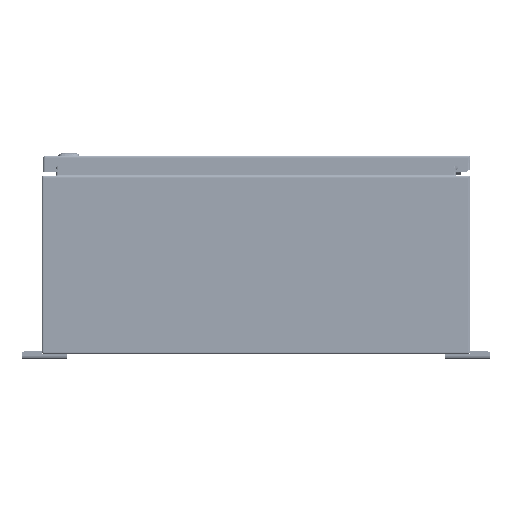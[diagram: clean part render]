
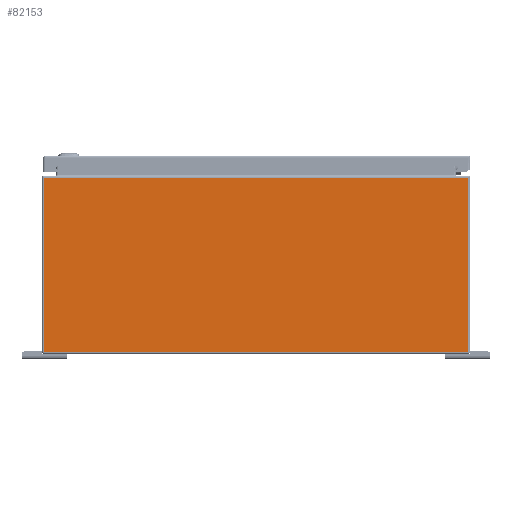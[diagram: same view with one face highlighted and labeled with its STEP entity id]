
A CAD part, left-side view. The second image highlights one B-rep face of the part: STEP entity #82153.
In plain terms, the highlighted planar face has unit normal (-1, 0, 0).
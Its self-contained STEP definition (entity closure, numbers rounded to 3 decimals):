
#4909=PLANE('',#88195);
#6984=LINE('',#116804,#13155);
#6985=LINE('',#116808,#13156);
#6986=LINE('',#116810,#13157);
#6987=LINE('',#116812,#13158);
#6988=LINE('',#116814,#13159);
#6989=LINE('',#116815,#13160);
#13155=VECTOR('',#95779,0.394);
#13156=VECTOR('',#95784,0.394);
#13157=VECTOR('',#95785,0.394);
#13158=VECTOR('',#95786,0.394);
#13159=VECTOR('',#95787,0.394);
#13160=VECTOR('',#95788,0.394);
#20580=FACE_OUTER_BOUND('',#25579,.T.);
#25579=EDGE_LOOP('',(#55475,#55476,#55477,#55478,#55479,#55480));
#34266=VERTEX_POINT('',#116786);
#34273=VERTEX_POINT('',#116803);
#34274=VERTEX_POINT('',#116807);
#34275=VERTEX_POINT('',#116809);
#34276=VERTEX_POINT('',#116811);
#34277=VERTEX_POINT('',#116813);
#42498=EDGE_CURVE('',#34266,#34273,#6984,.T.);
#42500=EDGE_CURVE('',#34274,#34266,#6985,.T.);
#42501=EDGE_CURVE('',#34274,#34275,#6986,.T.);
#42502=EDGE_CURVE('',#34276,#34275,#6987,.T.);
#42503=EDGE_CURVE('',#34277,#34276,#6988,.T.);
#42504=EDGE_CURVE('',#34277,#34273,#6989,.T.);
#55475=ORIENTED_EDGE('',*,*,#42500,.F.);
#55476=ORIENTED_EDGE('',*,*,#42501,.T.);
#55477=ORIENTED_EDGE('',*,*,#42502,.F.);
#55478=ORIENTED_EDGE('',*,*,#42503,.F.);
#55479=ORIENTED_EDGE('',*,*,#42504,.T.);
#55480=ORIENTED_EDGE('',*,*,#42498,.F.);
#82153=ADVANCED_FACE('',(#20580),#4909,.F.);
#88195=AXIS2_PLACEMENT_3D('',#116806,#95782,#95783);
#95779=DIRECTION('',(0.,0.,-1.));
#95782=DIRECTION('center_axis',(1.,0.,0.));
#95783=DIRECTION('ref_axis',(0.,0.,-1.));
#95784=DIRECTION('',(0.,-1.,0.));
#95785=DIRECTION('',(0.,1.,0.));
#95786=DIRECTION('',(0.,-1.,0.));
#95787=DIRECTION('',(0.,0.,1.));
#95788=DIRECTION('',(0.,-1.,0.));
#116786=CARTESIAN_POINT('',(-24.,-11.901,9.901));
#116803=CARTESIAN_POINT('',(-24.,-11.901,0.099));
#116804=CARTESIAN_POINT('',(-24.,-11.901,5.));
#116806=CARTESIAN_POINT('Origin',(-24.,0.,5.));
#116807=CARTESIAN_POINT('',(-24.,-11.126,9.901));
#116808=CARTESIAN_POINT('',(-24.,-5.975,9.901));
#116809=CARTESIAN_POINT('',(-24.,11.126,9.901));
#116810=CARTESIAN_POINT('',(-24.,5.955,9.901));
#116811=CARTESIAN_POINT('',(-24.,11.901,9.901));
#116812=CARTESIAN_POINT('',(-24.,-5.975,9.901));
#116813=CARTESIAN_POINT('',(-24.,11.901,0.099));
#116814=CARTESIAN_POINT('',(-24.,11.901,5.));
#116815=CARTESIAN_POINT('',(-24.,6.,0.099));
